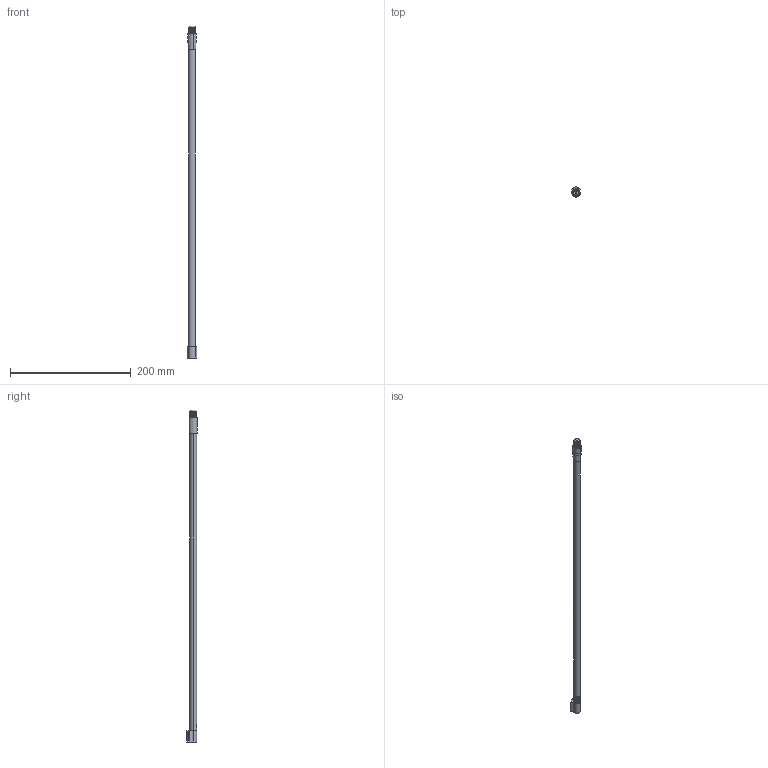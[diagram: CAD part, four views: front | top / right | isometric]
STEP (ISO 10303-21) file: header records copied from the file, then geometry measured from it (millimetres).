
FILE_DESCRIPTION (( 'STEP AP203' ), '1' );
FILE_NAME ('StrongBox ND reling tyèka, 550mm_246707 a 246714_3D.STEP', '2020-10-13T11:37:26', ( '' ), ( '' ), 'SwSTEP 2.0', 'SolidWorks 2019', '' );
FILE_SCHEMA (( 'CONFIG_CONTROL_DESIGN' ));
Length unit declared in the file: millimetre
Products named in the file (6): 246701_02; 246701_01; 246707_01; 246701_04; StrongBox ND reling tyèka, 550mm_246707 a 246714_3D; 246701_03
Assembly tree (5 placements, depth 2):
  StrongBox ND reling tyèka, 550mm_246707 a 246714_3D
    246707_01
    246701_01
    246701_03
    246701_04
    246701_02
Bounding box: 16 x 18.09 x 550 mm (x, y, z)
Volume: 26459.8 mm3; surface area: 39300.9 mm2
Topology: 6 solids, 6 shells, 476 faces, 1201 edges, 741 vertices
Faces by surface type: cone 275, plane 137, cylinder 54, torus 10
Entity records: 15102 total; most frequent: CARTESIAN_POINT 3142, DIRECTION 2408, ORIENTED_EDGE 2402, EDGE_CURVE 1201, AXIS2_PLACEMENT_3D 951, VERTEX_POINT 741, VECTOR 506, LINE 506
